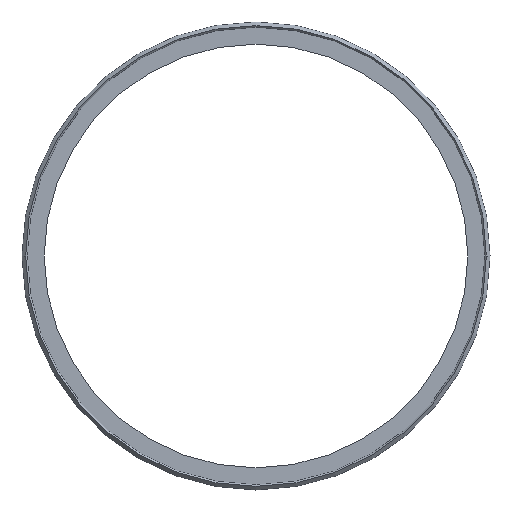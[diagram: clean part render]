
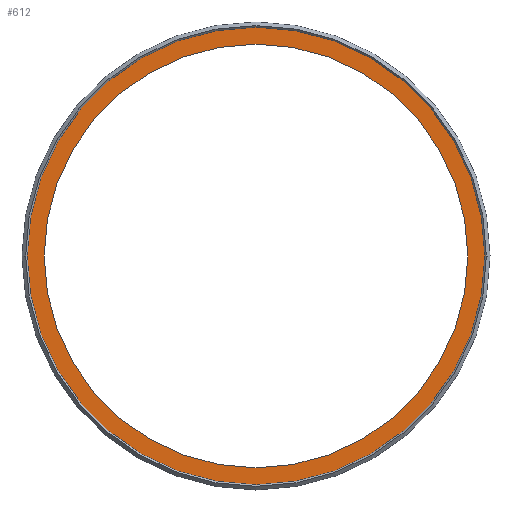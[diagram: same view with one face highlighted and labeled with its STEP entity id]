
A CAD part, left-side view. The second image highlights one B-rep face of the part: STEP entity #612.
In plain terms, the highlighted planar face has unit normal (-1, 0, 0).
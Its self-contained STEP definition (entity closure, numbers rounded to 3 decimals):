
#130=CARTESIAN_POINT('',(0.55,75.4,0.0));
#131=VERTEX_POINT('',#130);
#140=CARTESIAN_POINT('',(0.55,-75.4,0.));
#141=VERTEX_POINT('',#140);
#142=CARTESIAN_POINT('',(0.55,0.0,0.0));
#143=DIRECTION('',(-1.0,0.0,0.0));
#144=DIRECTION('',(0.0,1.0,0.0));
#145=AXIS2_PLACEMENT_3D('',#142,#143,#144);
#146=CIRCLE('',#145,75.4);
#147=EDGE_CURVE('',#131,#141,#146,.T.);
#246=CARTESIAN_POINT('',(0.55,81.45,0.0));
#247=VERTEX_POINT('',#246);
#255=CARTESIAN_POINT('',(0.55,-81.45,0.));
#256=VERTEX_POINT('',#255);
#263=CARTESIAN_POINT('',(0.55,0.0,0.0));
#264=DIRECTION('',(-1.0,0.0,0.0));
#265=DIRECTION('',(0.0,1.0,0.0));
#266=AXIS2_PLACEMENT_3D('',#263,#264,#265);
#267=CIRCLE('',#266,81.45);
#268=EDGE_CURVE('',#247,#256,#267,.T.);
#587=CARTESIAN_POINT('',(0.55,78.425,0.0));
#588=DIRECTION('',(1.0,0.0,0.0));
#589=DIRECTION('',(0.0,0.0,-1.0));
#590=AXIS2_PLACEMENT_3D('',#587,#588,#589);
#591=PLANE('',#590);
#592=ORIENTED_EDGE('',*,*,#268,.T.);
#593=CARTESIAN_POINT('',(0.55,0.0,0.0));
#594=DIRECTION('',(-1.0,0.0,0.0));
#595=DIRECTION('',(0.0,1.0,0.0));
#596=AXIS2_PLACEMENT_3D('',#593,#594,#595);
#597=CIRCLE('',#596,81.45);
#598=EDGE_CURVE('',#256,#247,#597,.T.);
#599=ORIENTED_EDGE('',*,*,#598,.T.);
#600=EDGE_LOOP('',(#592,#599));
#601=FACE_OUTER_BOUND('',#600,.T.);
#602=ORIENTED_EDGE('',*,*,#147,.F.);
#603=CARTESIAN_POINT('',(0.55,0.0,0.0));
#604=DIRECTION('',(-1.0,0.0,0.0));
#605=DIRECTION('',(0.0,1.0,0.0));
#606=AXIS2_PLACEMENT_3D('',#603,#604,#605);
#607=CIRCLE('',#606,75.4);
#608=EDGE_CURVE('',#141,#131,#607,.T.);
#609=ORIENTED_EDGE('',*,*,#608,.F.);
#610=EDGE_LOOP('',(#602,#609));
#611=FACE_BOUND('',#610,.T.);
#612=ADVANCED_FACE('',(#601,#611),#591,.F.);
